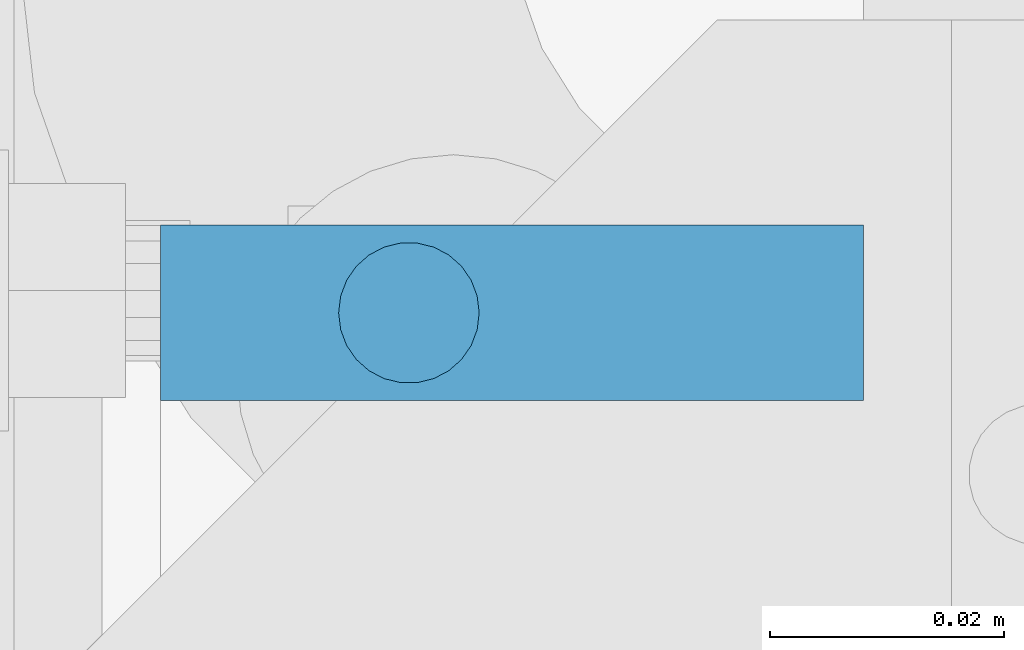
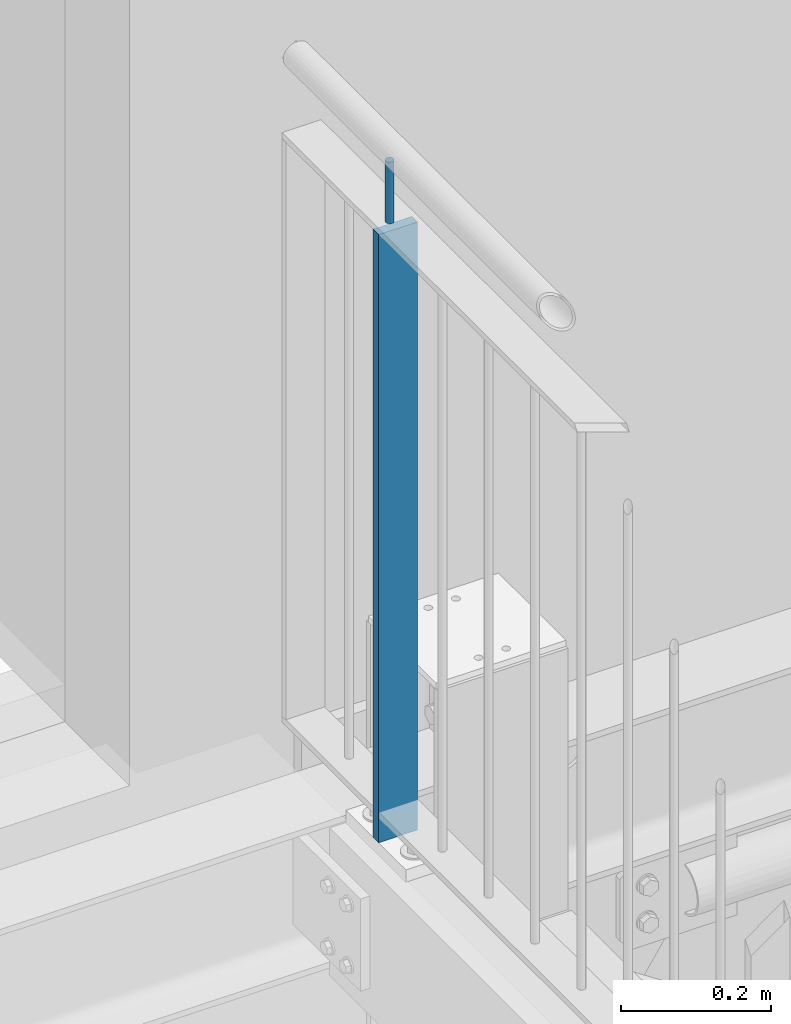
# One storey, part 72 of 825: 2 columns.
"""IFC2X3 building model written with IfcOpenShell, lengths in millimetres."""

from ifc_helpers import new_model, entity, si_unit, converted_unit, frame, origin, origin_with_axes, origin_2d, place, context, project, spatial, rectangle, circle, extrude, clip, halfspace, material, element, save


model = new_model("IFC2X3")

# Units and contexts
model_context = context("Model", 3, precision=1e-09, world=origin_with_axes())
ifc_project = project(units=[si_unit("LENGTHUNIT", "METRE", prefix="MILLI"), si_unit("AREAUNIT", "SQUARE_METRE"), si_unit("VOLUMEUNIT", "CUBIC_METRE"), converted_unit("PLANEANGLEUNIT", "DEGREE", entity("IfcPlaneAngleMeasure", 0.01745329), si_unit("PLANEANGLEUNIT", "RADIAN"), dimensions=[0, 0, 0, 0, 0, 0, 0])], contexts=[model_context])

# Site, building, storey
site_placement = place(None, origin_with_axes())
site = spatial("IfcSite", under=ifc_project, at=site_placement, Name="Cnopf'sche Kinderklinik", CompositionType="ELEMENT")
building_placement = place(site_placement, origin_with_axes())
building = spatial("IfcBuilding", under=site, at=building_placement, Name="Struktur 1", CompositionType="ELEMENT")
storey_placement = place(building_placement, origin_with_axes())
storey = spatial("IfcBuildingStorey", under=building, at=storey_placement, Name="Default Storey", CompositionType="ELEMENT", Elevation=0.0)

# Columns
ifc_material = material(Name="S235JR")
column_1_placement = place(None, frame((4656.713402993, 7361.736971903, 18873.723292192), z_axis=(0.0, 0.0, 1.0), x_axis=(0.0, 1.0, 0.0)))
element("IfcColumn", 1, at=column_1_placement, inside=storey, material=ifc_material, Name="Railing_Post_Landing#4", ObjectType="Railing_Post_Landing#4", context=model_context, shape_type="Clipping", body=[
    clip(clip(extrude(rectangle(XDim=15.0, YDim=60.0, at=origin_2d()), origin(), (0.0, 0.0, -1.0), 1070.646584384), halfspace(frame((-7361.736971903, 4656.713402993, -1019.722292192), z_axis=(0.0, 0.0, 1.0), x_axis=(0.0, -1.0, 0.0)), True)), halfspace(frame((-7361.736971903, 4656.713402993, -30.924292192), z_axis=(0.0, 0.0, -1.0), x_axis=(0.0, 1.0, 0.0)), True)),
])
column_2_placement = place(None, frame((4647.913402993, 7361.736971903, 18961.285281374), z_axis=(0.0, 0.0, 1.0), x_axis=(1.0, 0.0, 0.0)))
element("IfcColumn", 2, at=column_2_placement, inside=storey, material=ifc_material, Name="Bar#4", ObjectType="Bar#4", context=model_context, shape_type="Clipping", body=[
    clip(clip(extrude(circle(Radius=6.0, at=origin_2d()), origin(), (0.0, 0.0, -1.0), 116.970562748), halfspace(frame((-4647.913402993, -7361.736971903, -8.486281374), z_axis=(0.0, 0.0, -1.0), x_axis=(-1.0, 0.0, 0.0)), True)), halfspace(frame((-4647.913402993, -7361.736971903, -108.484281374), z_axis=(0.0, 0.0, 1.0), x_axis=(1.0, 0.0, 0.0)), True)),
])

save(model, "model.ifc")
